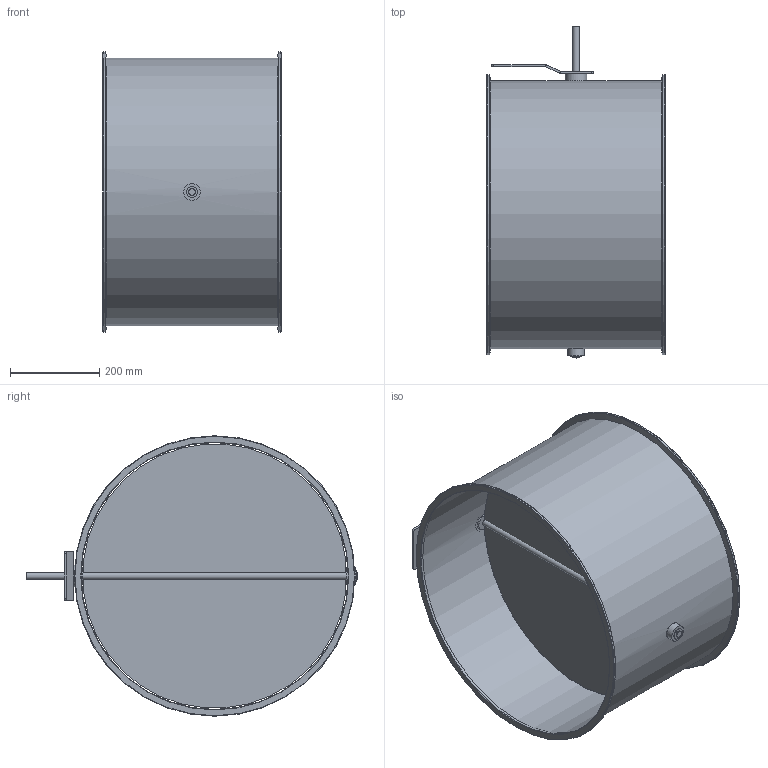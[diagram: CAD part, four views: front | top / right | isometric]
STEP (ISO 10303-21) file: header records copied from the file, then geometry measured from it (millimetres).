
FILE_DESCRIPTION(/* description */ (''),/* implementation_level */ '2;1');
FILE_NAME(/* name */ 'EA112-80B__600_L400_Belimo_Typen_NF_SF.stp',/* time_stamp */ '2017-12-07T10:37:53+01:00',/* author */ (''),/* organization */ (''),/* preprocessor_version */ 'ST-DEVELOPER v11',/* originating_system */ 'SIEMENS UGS NX 6.0',/* authorisation */ '');
FILE_SCHEMA (('CONFIG_CONTROL_DESIGN'));
Length unit declared in the file: millimetre
Products named in the file (1): gars5544kx73
Bounding box: 400 x 746 x 630 mm (x, y, z)
Volume: 1771124 mm3; surface area: 2277354.4 mm2
Topology: 8 solids, 8 shells, 79 faces, 167 edges, 106 vertices
Faces by surface type: plane 36, cylinder 35, torus 6, cone 2
Full cylindrical faces by diameter (mm): 6.1 x7, 15 x3, 25 x3, 25.85 x2, 26 x2, 38 x3, 49 x1, 600 x1, 602 x1, 630 x2
Entity records: 2062 total; most frequent: CARTESIAN_POINT 368, DIRECTION 352, ORIENTED_EDGE 248, AXIS2_PLACEMENT_3D 152, EDGE_LOOP 144, EDGE_CURVE 124, FACE_BOUND 114, VERTEX_POINT 96
